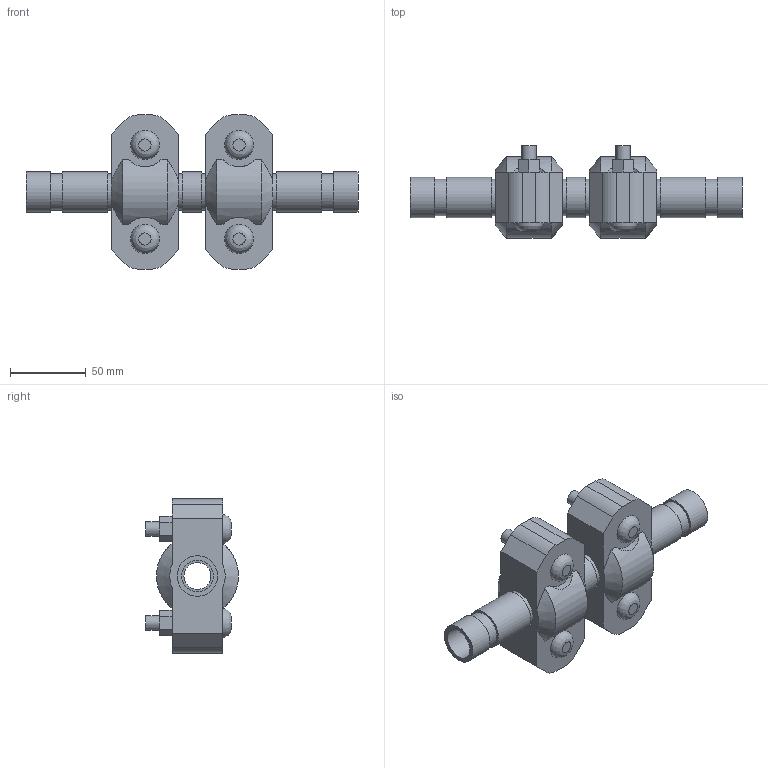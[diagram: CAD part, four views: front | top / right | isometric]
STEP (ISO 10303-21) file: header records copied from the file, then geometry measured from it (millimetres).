
FILE_DESCRIPTION(/* description */ ('VIC EXPANSION JOINT 2 COUPLINGS EXPANDED STYLE 155 (OGS)','CAx-IF Rec.Pracs.---Representation and Presentation of Product Manufacturing Information (PMI)---4.0---2014-10-13'),/* implementation_level */ '2;1');
FILE_NAME(/* name */ 'C:\Users\kkamble\AppData\Roaming\Autodesk\ApplicationPlugins\Victaulic.Temp\A706\Victaulic_IPS_Expansion Joint_Expanded_2 Couplings_Style 155 (OGS)_0.75 (20).stp',/* time_stamp */ '2021-06-26T23:55:53+02:00',/* author */ ('kkamble'),/* organization */ ('Victaulic'),/* preprocessor_version */ 'ST-DEVELOPER v17.2',/* originating_system */ 'Autodesk Inventor 2019',/* authorisation */ '');
FILE_SCHEMA (('AP242_MANAGED_MODEL_BASED_3D_ENGINEERING_MIM_LF { 1 0 10303 442 1 1 4 }'));
Length unit declared in the file: inch
Products named in the file (4): 155-0.75; Nipple-0.75; Nipple-0.75_1; 077-0.75
Assembly tree (5 placements, depth 2):
  155-0.75
    Nipple-0.75  x2
    Nipple-0.75_1
    077-0.75  x2
Bounding box: 218.69 x 61.1 x 101.6 mm (x, y, z)
Volume: 323493.3 mm3; surface area: 89883.9 mm2
Topology: 5 solids, 9 shells, 158 faces, 380 edges, 268 vertices
Faces by surface type: plane 90, cylinder 56, cone 8, bspline 4
Full cylindrical faces by diameter (mm): 9.525 x8, 11.43 x4, 17.78 x2, 20.93 x3, 23.825 x6, 26.67 x13
Entity records: 2953 total; most frequent: CARTESIAN_POINT 581, DIRECTION 473, ORIENTED_EDGE 410, EDGE_CURVE 205, AXIS2_PLACEMENT_3D 188, VERTEX_POINT 146, EDGE_LOOP 111, LINE 97
